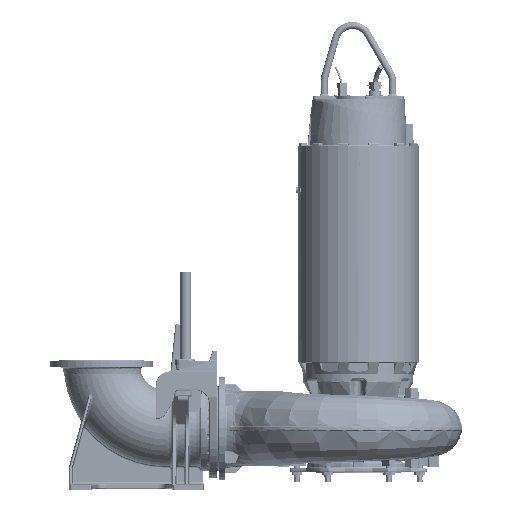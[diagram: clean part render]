
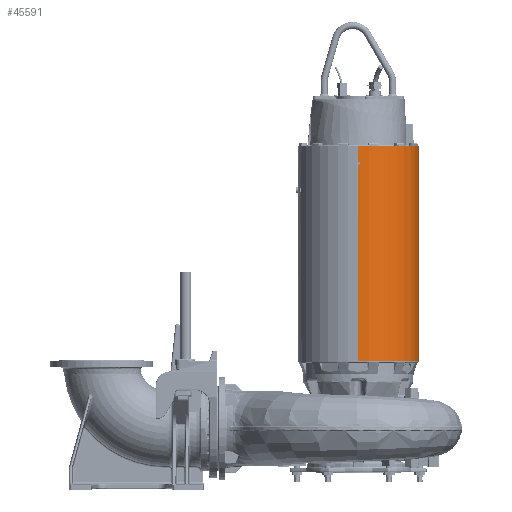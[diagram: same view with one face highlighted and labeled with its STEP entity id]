
A CAD part, top view. The second image highlights one B-rep face of the part: STEP entity #45591.
In plain terms, the highlighted cylindrical face has radius 344 mm (diameter 688 mm), a partial arc.
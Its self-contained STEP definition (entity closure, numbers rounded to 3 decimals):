
#894 = ORIENTED_EDGE ( 'NONE', *, *, #306633, .T. ) ;
#2637 = ORIENTED_EDGE ( 'NONE', *, *, #86982, .F. ) ;
#11046 = CARTESIAN_POINT ( 'NONE',  ( 9.5, 1345.349, 343.869 ) ) ;
#17702 = CARTESIAN_POINT ( 'NONE',  ( 0., 1115.97, -344. ) ) ;
#20739 =( BOUNDED_CURVE ( )  B_SPLINE_CURVE ( 3, ( #167347, #250034, #56700, #251187 ),
 .UNSPECIFIED., .F., .F. ) 
 B_SPLINE_CURVE_WITH_KNOTS ( ( 4, 4 ),
 ( 1.543, 1.571 ),
 .UNSPECIFIED. ) 
 CURVE ( )  GEOMETRIC_REPRESENTATION_ITEM ( )  RATIONAL_B_SPLINE_CURVE ( ( 1., 1., 1., 1. ) ) 
 REPRESENTATION_ITEM ( '' )  );
#21833 = CARTESIAN_POINT ( 'NONE',  ( 0., 1205., -344. ) ) ;
#24658 = DIRECTION ( 'NONE',  ( 0., -1., 0. ) ) ;
#24998 = CARTESIAN_POINT ( 'NONE',  ( 0., 1205., 0. ) ) ;
#26416 = CARTESIAN_POINT ( 'NONE',  ( 9.5, 1099.515, -343.869 ) ) ;
#30505 = EDGE_LOOP ( 'NONE', ( #326603, #894, #172472, #322300, #223305, #88036, #275614, #2637, #295749, #223795, #348948, #175641 ) ) ;
#34399 = CARTESIAN_POINT ( 'NONE',  ( 0., 1115.97, -344. ) ) ;
#40289 = CARTESIAN_POINT ( 'NONE',  ( 0., 1115.97, 344. ) ) ;
#40570 = CYLINDRICAL_SURFACE ( 'NONE', #252268, 344. ) ;
#45591 = ADVANCED_FACE ( 'NONE', ( #214557 ), #40570, .T. ) ;
#45665 = VERTEX_POINT ( 'NONE', #49664 ) ;
#49664 = CARTESIAN_POINT ( 'NONE',  ( 0., -20., 344. ) ) ;
#51942 = DIRECTION ( 'NONE',  ( 0., -1., 0. ) ) ;
#52980 = DIRECTION ( 'NONE',  ( 0., 0., -1. ) ) ;
#54478 = VECTOR ( 'NONE', #24658, 1000. ) ;
#56700 = CARTESIAN_POINT ( 'NONE',  ( 3.167, 1095.859, 344. ) ) ;
#56778 = CARTESIAN_POINT ( 'NONE',  ( 3.167, 1095.859, -344. ) ) ;
#57720 = VECTOR ( 'NONE', #254223, 1000. ) ;
#59568 = CARTESIAN_POINT ( 'NONE',  ( 9.5, 1099.515, -343.869 ) ) ;
#64018 = VERTEX_POINT ( 'NONE', #214230 ) ;
#66250 = EDGE_CURVE ( 'NONE', #274311, #45665, #288159, .T. ) ;
#67120 = VERTEX_POINT ( 'NONE', #158137 ) ;
#70624 = CARTESIAN_POINT ( 'NONE',  ( 3.167, 1114.141, 344. ) ) ;
#75277 = LINE ( 'NONE', #236147, #140471 ) ;
#75476 = VERTEX_POINT ( 'NONE', #297018 ) ;
#86394 = LINE ( 'NONE', #199017, #208081 ) ;
#86733 = CARTESIAN_POINT ( 'NONE',  ( 0., -20., -344. ) ) ;
#86982 = EDGE_CURVE ( 'NONE', #135754, #274311, #359500, .T. ) ;
#88036 = ORIENTED_EDGE ( 'NONE', *, *, #212526, .T. ) ;
#95217 =( BOUNDED_CURVE ( )  B_SPLINE_CURVE ( 3, ( #26416, #222189, #56778, #251270 ),
 .UNSPECIFIED., .F., .F. ) 
 B_SPLINE_CURVE_WITH_KNOTS ( ( 4, 4 ),
 ( 1.543, 1.571 ),
 .UNSPECIFIED. ) 
 CURVE ( )  GEOMETRIC_REPRESENTATION_ITEM ( )  RATIONAL_B_SPLINE_CURVE ( ( 1., 1., 1., 1. ) ) 
 REPRESENTATION_ITEM ( '' )  );
#97556 = DIRECTION ( 'NONE',  ( 0., -1., 0. ) ) ;
#97671 = EDGE_CURVE ( 'NONE', #110523, #168187, #75277, .T. ) ;
#110523 = VERTEX_POINT ( 'NONE', #21833 ) ;
#111255 = CARTESIAN_POINT ( 'NONE',  ( 9.5, 1099.515, 343.869 ) ) ;
#119002 = EDGE_CURVE ( 'NONE', #168187, #223365, #358832, .T. ) ;
#125017 = AXIS2_PLACEMENT_3D ( 'NONE', #218529, #51942, #246471 ) ;
#126467 = CARTESIAN_POINT ( 'NONE',  ( 9.5, 1110.485, 343.869 ) ) ;
#128319 = CARTESIAN_POINT ( 'NONE',  ( 3.167, 1114.141, -344. ) ) ;
#129152 = CARTESIAN_POINT ( 'NONE',  ( 0., 0., -344. ) ) ;
#135072 = VERTEX_POINT ( 'NONE', #111255 ) ;
#135754 = VERTEX_POINT ( 'NONE', #350369 ) ;
#140471 = VECTOR ( 'NONE', #97556, 1000. ) ;
#157878 = CARTESIAN_POINT ( 'NONE',  ( 0., 0., 0. ) ) ;
#157914 = DIRECTION ( 'NONE',  ( 0., -1., 0. ) ) ;
#158137 = CARTESIAN_POINT ( 'NONE',  ( 9.5, 1110.485, 343.869 ) ) ;
#162008 = CARTESIAN_POINT ( 'NONE',  ( 0., 0., 344. ) ) ;
#167347 = CARTESIAN_POINT ( 'NONE',  ( 9.5, 1099.515, 343.869 ) ) ;
#168187 = VERTEX_POINT ( 'NONE', #34399 ) ;
#171051 = DIRECTION ( 'NONE',  ( 0., -1., 0. ) ) ;
#172472 = ORIENTED_EDGE ( 'NONE', *, *, #277317, .T. ) ;
#175641 = ORIENTED_EDGE ( 'NONE', *, *, #97671, .F. ) ;
#192267 = CARTESIAN_POINT ( 'NONE',  ( 9.5, 1110.485, -343.869 ) ) ;
#193715 = LINE ( 'NONE', #162008, #54478 ) ;
#194776 = CARTESIAN_POINT ( 'NONE',  ( 0., 0., 344. ) ) ;
#199017 = CARTESIAN_POINT ( 'NONE',  ( 9.5, 1345.349, -343.869 ) ) ;
#208081 = VECTOR ( 'NONE', #171051, 1000. ) ;
#211623 = VECTOR ( 'NONE', #323542, 1000. ) ;
#212179 = CARTESIAN_POINT ( 'NONE',  ( 9.5, 1110.485, -343.869 ) ) ;
#212526 = EDGE_CURVE ( 'NONE', #64018, #45665, #279436, .T. ) ;
#214230 = CARTESIAN_POINT ( 'NONE',  ( 0., 1094.03, 344. ) ) ;
#214557 = FACE_OUTER_BOUND ( 'NONE', #30505, .T. ) ;
#214987 = DIRECTION ( 'NONE',  ( 0., -1., 0. ) ) ;
#218529 = CARTESIAN_POINT ( 'NONE',  ( 0., -20., 0. ) ) ;
#219605 = DIRECTION ( 'NONE',  ( 0., -1., 0. ) ) ;
#222189 = CARTESIAN_POINT ( 'NONE',  ( 6.334, 1097.687, -343.956 ) ) ;
#223305 = ORIENTED_EDGE ( 'NONE', *, *, #356752, .T. ) ;
#223365 = VERTEX_POINT ( 'NONE', #192267 ) ;
#223795 = ORIENTED_EDGE ( 'NONE', *, *, #225534, .F. ) ;
#225534 = EDGE_CURVE ( 'NONE', #223365, #333402, #86394, .T. ) ;
#233283 = CARTESIAN_POINT ( 'NONE',  ( 0., 1205., 344. ) ) ;
#235542 = EDGE_CURVE ( 'NONE', #67120, #135072, #350769, .T. ) ;
#236147 = CARTESIAN_POINT ( 'NONE',  ( 0., 0., -344. ) ) ;
#246471 = DIRECTION ( 'NONE',  ( 1., 0., 0. ) ) ;
#250034 = CARTESIAN_POINT ( 'NONE',  ( 6.334, 1097.687, 343.956 ) ) ;
#251187 = CARTESIAN_POINT ( 'NONE',  ( 0., 1094.03, 344. ) ) ;
#251270 = CARTESIAN_POINT ( 'NONE',  ( 0., 1094.03, -344. ) ) ;
#252268 = AXIS2_PLACEMENT_3D ( 'NONE', #157878, #214987, #354684 ) ;
#254223 = DIRECTION ( 'NONE',  ( 0., -1., 0. ) ) ;
#255755 = EDGE_CURVE ( 'NONE', #333402, #135754, #95217, .T. ) ;
#274311 = VERTEX_POINT ( 'NONE', #86733 ) ;
#275614 = ORIENTED_EDGE ( 'NONE', *, *, #66250, .F. ) ;
#276779 = VECTOR ( 'NONE', #157914, 1000. ) ;
#277317 = EDGE_CURVE ( 'NONE', #75476, #67120, #349209, .T. ) ;
#279436 = LINE ( 'NONE', #194776, #57720 ) ;
#288159 = CIRCLE ( 'NONE', #125017, 344. ) ;
#292977 = CARTESIAN_POINT ( 'NONE',  ( 6.334, 1112.313, 343.956 ) ) ;
#294768 = CARTESIAN_POINT ( 'NONE',  ( 6.334, 1112.313, -343.956 ) ) ;
#295749 = ORIENTED_EDGE ( 'NONE', *, *, #255755, .F. ) ;
#296300 = AXIS2_PLACEMENT_3D ( 'NONE', #24998, #219605, #52980 ) ;
#297018 = CARTESIAN_POINT ( 'NONE',  ( 0., 1115.97, 344. ) ) ;
#297617 = EDGE_CURVE ( 'NONE', #110523, #322049, #315831, .T. ) ;
#306633 = EDGE_CURVE ( 'NONE', #322049, #75476, #193715, .T. ) ;
#315831 = CIRCLE ( 'NONE', #296300, 344. ) ;
#322049 = VERTEX_POINT ( 'NONE', #233283 ) ;
#322300 = ORIENTED_EDGE ( 'NONE', *, *, #235542, .T. ) ;
#323542 = DIRECTION ( 'NONE',  ( 0., -1., 0. ) ) ;
#326603 = ORIENTED_EDGE ( 'NONE', *, *, #297617, .T. ) ;
#333402 = VERTEX_POINT ( 'NONE', #59568 ) ;
#348948 = ORIENTED_EDGE ( 'NONE', *, *, #119002, .F. ) ;
#349209 =( BOUNDED_CURVE ( )  B_SPLINE_CURVE ( 3, ( #40289, #70624, #292977, #126467 ),
 .UNSPECIFIED., .F., .F. ) 
 B_SPLINE_CURVE_WITH_KNOTS ( ( 4, 4 ),
 ( 1.571, 1.598 ),
 .UNSPECIFIED. ) 
 CURVE ( )  GEOMETRIC_REPRESENTATION_ITEM ( )  RATIONAL_B_SPLINE_CURVE ( ( 1., 1., 1., 1. ) ) 
 REPRESENTATION_ITEM ( '' )  );
#350369 = CARTESIAN_POINT ( 'NONE',  ( 0., 1094.03, -344. ) ) ;
#350769 = LINE ( 'NONE', #11046, #276779 ) ;
#354684 = DIRECTION ( 'NONE',  ( 0., 0., -1. ) ) ;
#356752 = EDGE_CURVE ( 'NONE', #135072, #64018, #20739, .T. ) ;
#358832 =( BOUNDED_CURVE ( )  B_SPLINE_CURVE ( 3, ( #17702, #128319, #294768, #212179 ),
 .UNSPECIFIED., .F., .F. ) 
 B_SPLINE_CURVE_WITH_KNOTS ( ( 4, 4 ),
 ( 1.571, 1.598 ),
 .UNSPECIFIED. ) 
 CURVE ( )  GEOMETRIC_REPRESENTATION_ITEM ( )  RATIONAL_B_SPLINE_CURVE ( ( 1., 1., 1., 1. ) ) 
 REPRESENTATION_ITEM ( '' )  );
#359500 = LINE ( 'NONE', #129152, #211623 ) ;
